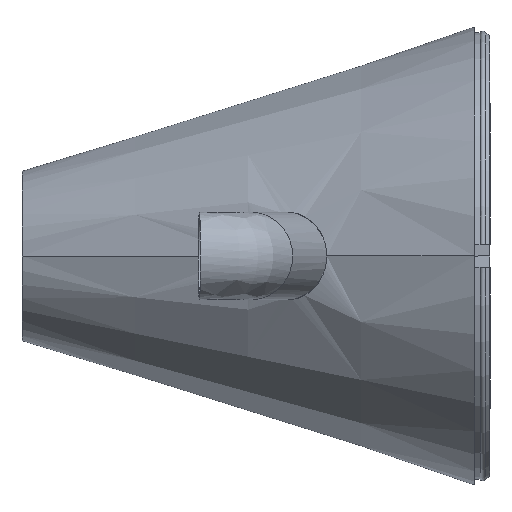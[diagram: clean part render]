
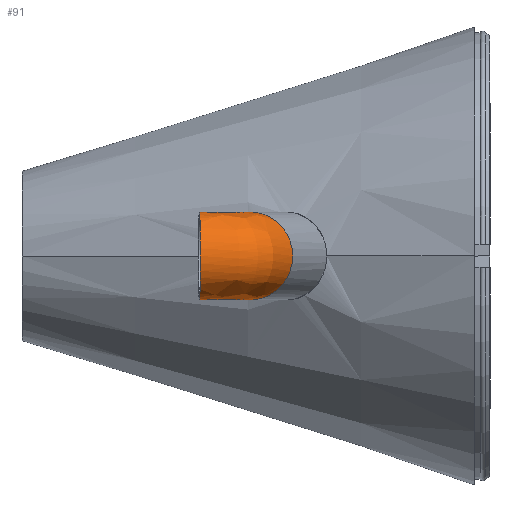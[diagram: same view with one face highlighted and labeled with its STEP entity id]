
A CAD part, left-side view. The second image highlights one B-rep face of the part: STEP entity #91.
In plain terms, the highlighted free-form (B-spline) face has degree [3, 3] with [7, 4] control points.
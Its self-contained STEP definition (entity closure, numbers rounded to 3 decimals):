
#4 = CARTESIAN_POINT ( 'NONE',  ( -53.238, 24.674, -7.75 ) ) ;
#7 = DIRECTION ( 'NONE',  ( 0., 0., 1. ) ) ;
#19 = CARTESIAN_POINT ( 'NONE',  ( -40.005, 48.996, -7.75 ) ) ;
#22 = VERTEX_POINT ( 'NONE', #1446 ) ;
#69 = VERTEX_POINT ( 'NONE', #195 ) ;
#91 = ADVANCED_FACE ( 'NONE', ( #2362 ), #95, .F. ) ;
#95 =( BOUNDED_SURFACE ( )  B_SPLINE_SURFACE ( 3, 3, ( 
 ( #1450, #720, #1625, #1213 ),
 ( #983, #2377, #919, #2132 ),
 ( #19, #2580, #672, #2608 ),
 ( #1673, #1383, #476, #1874 ),
 ( #1181, #2349, #3067, #4 ),
 ( #1638, #457, #966, #932 ),
 ( #949, #2147, #1398, #1908 ) ),
 .UNSPECIFIED., .T., .F., .T. ) 
 B_SPLINE_SURFACE_WITH_KNOTS ( ( 4, 3, 4 ),
 ( 4, 4 ),
 ( 0., 0.5, 1. ),
 ( 0., 1. ),
 .UNSPECIFIED. ) 
 GEOMETRIC_REPRESENTATION_ITEM ( )  RATIONAL_B_SPLINE_SURFACE ( (
 ( 1., 0.872, 0.872, 1.),
 ( 0.333, 0.291, 0.291, 0.333),
 ( 0.333, 0.291, 0.291, 0.333),
 ( 1., 0.872, 0.872, 1.),
 ( 0.333, 0.291, 0.291, 0.333),
 ( 0.333, 0.291, 0.291, 0.333),
 ( 1., 0.872, 0.872, 1.) ) ) 
 REPRESENTATION_ITEM ( '' )  SURFACE ( )  );
#195 = CARTESIAN_POINT ( 'NONE',  ( -55.5, 48.614, -7.75 ) ) ;
#287 = CARTESIAN_POINT ( 'NONE',  ( -55.5, 48.614, 0. ) ) ;
#434 = CARTESIAN_POINT ( 'NONE',  ( -55.5, 48.614, -7.75 ) ) ;
#457 = CARTESIAN_POINT ( 'NONE',  ( -70.828, 36.951, 7.75 ) ) ;
#476 = CARTESIAN_POINT ( 'NONE',  ( -52.98, 40.861, -7.75 ) ) ;
#481 = AXIS2_PLACEMENT_3D ( 'NONE', #2920, #1485, #7 ) ;
#672 = CARTESIAN_POINT ( 'NONE',  ( -41.923, 53.781, -7.75 ) ) ;
#720 = CARTESIAN_POINT ( 'NONE',  ( -55.505, 44.326, 7.75 ) ) ;
#795 = CIRCLE ( 'NONE', #2003, 7.75 ) ;
#907 = CARTESIAN_POINT ( 'NONE',  ( -55.505, 44.326, -7.75 ) ) ;
#919 = CARTESIAN_POINT ( 'NONE',  ( -41.923, 53.781, 7.75 ) ) ;
#932 = CARTESIAN_POINT ( 'NONE',  ( -53.238, 24.674, 7.75 ) ) ;
#939 = EDGE_CURVE ( 'NONE', #22, #1814, #2225, .T. ) ;
#949 = CARTESIAN_POINT ( 'NONE',  ( -55.5, 48.614, 7.75 ) ) ;
#966 = CARTESIAN_POINT ( 'NONE',  ( -64.037, 27.941, 7.75 ) ) ;
#973 = CIRCLE ( 'NONE', #481, 7.75 ) ;
#983 = CARTESIAN_POINT ( 'NONE',  ( -40.005, 48.996, 7.75 ) ) ;
#995 = EDGE_CURVE ( 'NONE', #69, #2325, #2413, .T. ) ;
#1129 = CARTESIAN_POINT ( 'NONE',  ( -52.98, 40.861, 7.75 ) ) ;
#1143 = CARTESIAN_POINT ( 'NONE',  ( -48.897, 39.554, 7.75 ) ) ;
#1181 = CARTESIAN_POINT ( 'NONE',  ( -70.995, 48.232, -7.75 ) ) ;
#1213 = CARTESIAN_POINT ( 'NONE',  ( -48.897, 39.554, 7.75 ) ) ;
#1365 = ORIENTED_EDGE ( 'NONE', *, *, #939, .F. ) ;
#1383 = CARTESIAN_POINT ( 'NONE',  ( -55.505, 44.326, -7.75 ) ) ;
#1398 = CARTESIAN_POINT ( 'NONE',  ( -52.98, 40.861, 7.75 ) ) ;
#1446 = CARTESIAN_POINT ( 'NONE',  ( -55.5, 48.614, 7.75 ) ) ;
#1450 = CARTESIAN_POINT ( 'NONE',  ( -55.5, 48.614, 7.75 ) ) ;
#1485 = DIRECTION ( 'NONE',  ( -0.96, 0.28, 0. ) ) ;
#1561 = ORIENTED_EDGE ( 'NONE', *, *, #995, .T. ) ;
#1625 = CARTESIAN_POINT ( 'NONE',  ( -52.98, 40.861, 7.75 ) ) ;
#1630 = CARTESIAN_POINT ( 'NONE',  ( -48.897, 39.554, -7.75 ) ) ;
#1638 = CARTESIAN_POINT ( 'NONE',  ( -70.995, 48.232, 7.75 ) ) ;
#1673 = CARTESIAN_POINT ( 'NONE',  ( -55.5, 48.614, -7.75 ) ) ;
#1814 = VERTEX_POINT ( 'NONE', #2882 ) ;
#1866 = CARTESIAN_POINT ( 'NONE',  ( -52.98, 40.861, -7.75 ) ) ;
#1874 = CARTESIAN_POINT ( 'NONE',  ( -48.897, 39.554, -7.75 ) ) ;
#1908 = CARTESIAN_POINT ( 'NONE',  ( -48.897, 39.554, 7.75 ) ) ;
#1952 = DIRECTION ( 'NONE',  ( -0.025, 1., 0. ) ) ;
#2003 = AXIS2_PLACEMENT_3D ( 'NONE', #287, #1952, #2186 ) ;
#2032 = EDGE_CURVE ( 'NONE', #69, #22, #795, .T. ) ;
#2132 = CARTESIAN_POINT ( 'NONE',  ( -44.555, 54.433, 7.75 ) ) ;
#2147 = CARTESIAN_POINT ( 'NONE',  ( -55.505, 44.326, 7.75 ) ) ;
#2186 = DIRECTION ( 'NONE',  ( 0., 0., 1. ) ) ;
#2218 = ORIENTED_EDGE ( 'NONE', *, *, #2814, .T. ) ;
#2225 =( BOUNDED_CURVE ( )  B_SPLINE_CURVE ( 3, ( #2573, #3043, #1129, #1143 ),
 .UNSPECIFIED., .F., .F. ) 
 B_SPLINE_CURVE_WITH_KNOTS ( ( 4, 4 ),
 ( 0., 1. ),
 .UNSPECIFIED. ) 
 CURVE ( )  GEOMETRIC_REPRESENTATION_ITEM ( )  RATIONAL_B_SPLINE_CURVE ( ( 1., 0.872, 0.872, 1. ) ) 
 REPRESENTATION_ITEM ( '' )  );
#2325 = VERTEX_POINT ( 'NONE', #2579 ) ;
#2349 = CARTESIAN_POINT ( 'NONE',  ( -70.828, 36.951, -7.75 ) ) ;
#2362 = FACE_OUTER_BOUND ( 'NONE', #2948, .T. ) ;
#2377 = CARTESIAN_POINT ( 'NONE',  ( -40.183, 51.702, 7.75 ) ) ;
#2413 =( BOUNDED_CURVE ( )  B_SPLINE_CURVE ( 3, ( #434, #907, #1866, #1630 ),
 .UNSPECIFIED., .F., .T. ) 
 B_SPLINE_CURVE_WITH_KNOTS ( ( 4, 4 ),
 ( 0., 1. ),
 .UNSPECIFIED. ) 
 CURVE ( )  GEOMETRIC_REPRESENTATION_ITEM ( )  RATIONAL_B_SPLINE_CURVE ( ( 1., 0.872, 0.872, 1. ) ) 
 REPRESENTATION_ITEM ( '' )  );
#2573 = CARTESIAN_POINT ( 'NONE',  ( -55.5, 48.614, 7.75 ) ) ;
#2579 = CARTESIAN_POINT ( 'NONE',  ( -48.897, 39.554, -7.75 ) ) ;
#2580 = CARTESIAN_POINT ( 'NONE',  ( -40.183, 51.702, -7.75 ) ) ;
#2608 = CARTESIAN_POINT ( 'NONE',  ( -44.555, 54.433, -7.75 ) ) ;
#2814 = EDGE_CURVE ( 'NONE', #2325, #1814, #973, .T. ) ;
#2882 = CARTESIAN_POINT ( 'NONE',  ( -48.897, 39.554, 7.75 ) ) ;
#2920 = CARTESIAN_POINT ( 'NONE',  ( -48.897, 39.554, 0. ) ) ;
#2948 = EDGE_LOOP ( 'NONE', ( #3027, #1561, #2218, #1365 ) ) ;
#3027 = ORIENTED_EDGE ( 'NONE', *, *, #2032, .F. ) ;
#3043 = CARTESIAN_POINT ( 'NONE',  ( -55.505, 44.326, 7.75 ) ) ;
#3067 = CARTESIAN_POINT ( 'NONE',  ( -64.037, 27.941, -7.75 ) ) ;
